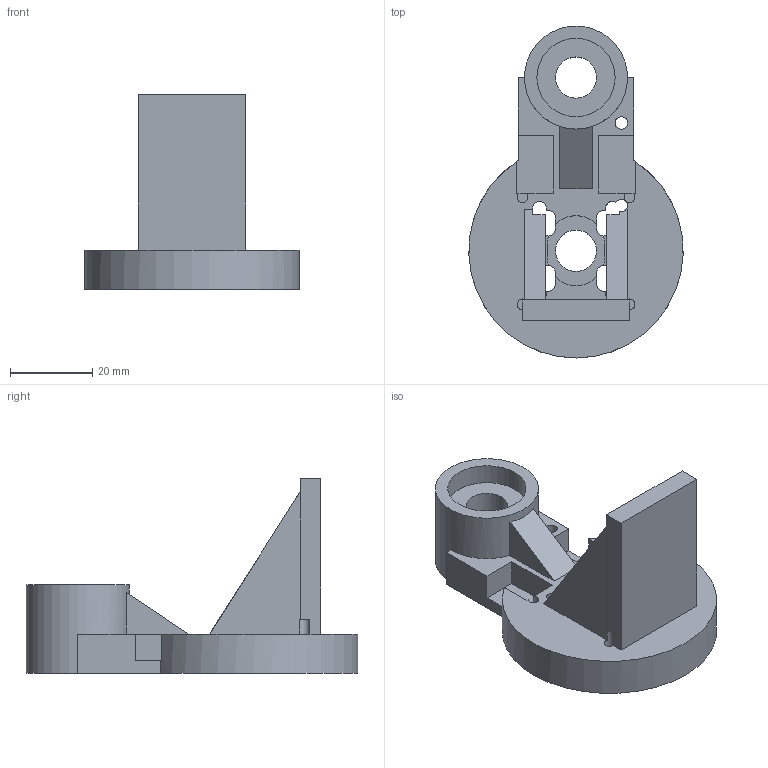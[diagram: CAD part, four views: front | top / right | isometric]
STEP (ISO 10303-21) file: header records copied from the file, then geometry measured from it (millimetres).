
FILE_DESCRIPTION(('Open CASCADE Model'),'2;1');
FILE_NAME('COMPOUND','2026-10-16T15:25:18',('Author'),('Open CASCADE'), 'Open CASCADE STEP processor 7.8','build123d','Unknown');
FILE_SCHEMA(('AUTOMOTIVE_DESIGN { 1 0 10303 214 1 1 1 1 }'));
Length unit declared in the file: millimetre
Products named in the file (2): =>[0:1:1:2]; COMPOUND
Assembly tree (1 placements, depth 2):
  =>[0:1:1:2]
    COMPOUND
Bounding box: 51.98 x 80.5 x 47.2 mm (x, y, z)
Volume: 34922.6 mm3; surface area: 14709.8 mm2
Topology: 1 solids, 1 shells, 97 faces, 291 edges, 194 vertices
Faces by surface type: plane 64, cylinder 33
Full cylindrical faces by diameter (mm): 2.6 x2, 3 x1, 10 x2, 19 x1, 25 x1
Entity records: 7312 total; most frequent: CARTESIAN_POINT 1645, DIRECTION 1044, LINE 655, VECTOR 655, ORIENTED_EDGE 582, PCURVE 582, DEFINITIONAL_REPRESENTATION 582, EDGE_CURVE 291
